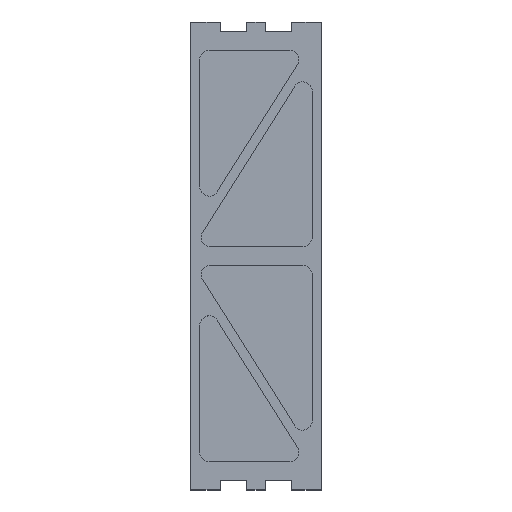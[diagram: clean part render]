
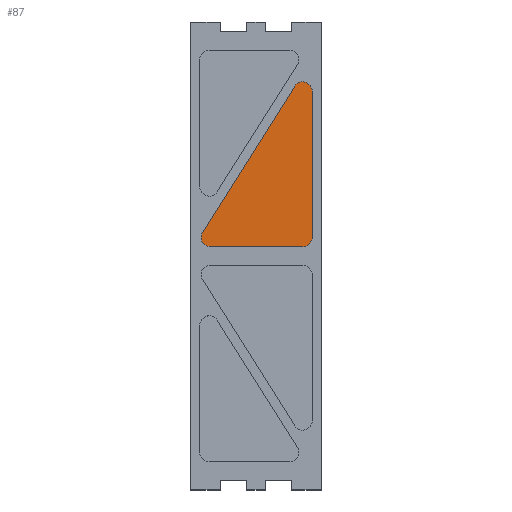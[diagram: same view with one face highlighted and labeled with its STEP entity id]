
A CAD part, top view. The second image highlights one B-rep face of the part: STEP entity #87.
In plain terms, the highlighted planar face has unit normal (0, 0, 1).
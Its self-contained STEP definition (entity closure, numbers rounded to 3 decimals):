
#87 = ADVANCED_FACE ( 'NONE', ( #666 ), #1547, .F. ) ;
#122 = CIRCLE ( 'NONE', #2105, 5. ) ;
#129 = VERTEX_POINT ( 'NONE', #1779 ) ;
#153 = DIRECTION ( 'NONE',  ( 0., 0., 1. ) ) ;
#159 = AXIS2_PLACEMENT_3D ( 'NONE', #575, #413, #922 ) ;
#222 = VERTEX_POINT ( 'NONE', #356 ) ;
#266 = DIRECTION ( 'NONE',  ( 1., 0., 0. ) ) ;
#283 = EDGE_CURVE ( 'NONE', #1451, #1733, #2031, .T. ) ;
#288 = DIRECTION ( 'NONE',  ( 0., 1., 0. ) ) ;
#319 = ORIENTED_EDGE ( 'NONE', *, *, #543, .T. ) ;
#356 = CARTESIAN_POINT ( 'NONE',  ( 55.773, 215.708, 1. ) ) ;
#392 = VECTOR ( 'NONE', #288, 1000. ) ;
#413 = DIRECTION ( 'NONE',  ( 0., 0., 1. ) ) ;
#435 = EDGE_CURVE ( 'NONE', #552, #222, #122, .T. ) ;
#538 = EDGE_CURVE ( 'NONE', #129, #1451, #953, .T. ) ;
#543 = EDGE_CURVE ( 'NONE', #1733, #552, #1132, .T. ) ;
#552 = VERTEX_POINT ( 'NONE', #1303 ) ;
#574 = AXIS2_PLACEMENT_3D ( 'NONE', #1373, #2099, #1720 ) ;
#575 = CARTESIAN_POINT ( 'NONE',  ( 60., 135., 1. ) ) ;
#652 = EDGE_CURVE ( 'NONE', #222, #1115, #1758, .T. ) ;
#661 = CARTESIAN_POINT ( 'NONE',  ( 6.485, 137.67, 1. ) ) ;
#666 = FACE_OUTER_BOUND ( 'NONE', #1334, .T. ) ;
#797 = ORIENTED_EDGE ( 'NONE', *, *, #435, .T. ) ;
#809 = CARTESIAN_POINT ( 'NONE',  ( 10.713, 130., 1. ) ) ;
#880 = ORIENTED_EDGE ( 'NONE', *, *, #538, .T. ) ;
#922 = DIRECTION ( 'NONE',  ( -1., 0., 0. ) ) ;
#953 = LINE ( 'NONE', #809, #976 ) ;
#976 = VECTOR ( 'NONE', #2203, 1000. ) ;
#1082 = ORIENTED_EDGE ( 'NONE', *, *, #283, .T. ) ;
#1115 = VERTEX_POINT ( 'NONE', #1718 ) ;
#1132 = LINE ( 'NONE', #1890, #392 ) ;
#1223 = EDGE_CURVE ( 'NONE', #1115, #129, #1984, .T. ) ;
#1274 = AXIS2_PLACEMENT_3D ( 'NONE', #2296, #153, #1940 ) ;
#1284 = ORIENTED_EDGE ( 'NONE', *, *, #1223, .T. ) ;
#1303 = CARTESIAN_POINT ( 'NONE',  ( 65., 213.038, 1. ) ) ;
#1334 = EDGE_LOOP ( 'NONE', ( #1082, #319, #797, #1844, #1284, #880 ) ) ;
#1353 = CARTESIAN_POINT ( 'NONE',  ( 65., 135., 1. ) ) ;
#1373 = CARTESIAN_POINT ( 'NONE',  ( 60., 135., 1. ) ) ;
#1451 = VERTEX_POINT ( 'NONE', #2273 ) ;
#1547 = PLANE ( 'NONE',  #574 ) ;
#1718 = CARTESIAN_POINT ( 'NONE',  ( 6.485, 137.67, 1. ) ) ;
#1720 = DIRECTION ( 'NONE',  ( -1., 0., 0. ) ) ;
#1733 = VERTEX_POINT ( 'NONE', #1353 ) ;
#1758 = LINE ( 'NONE', #661, #2187 ) ;
#1779 = CARTESIAN_POINT ( 'NONE',  ( 10.713, 130., 1. ) ) ;
#1844 = ORIENTED_EDGE ( 'NONE', *, *, #652, .T. ) ;
#1890 = CARTESIAN_POINT ( 'NONE',  ( 65., 135., 1. ) ) ;
#1940 = DIRECTION ( 'NONE',  ( 1., 0., 0. ) ) ;
#1984 = CIRCLE ( 'NONE', #1274, 5. ) ;
#2031 = CIRCLE ( 'NONE', #159, 5. ) ;
#2072 = DIRECTION ( 'NONE',  ( 0., 0., 1. ) ) ;
#2093 = DIRECTION ( 'NONE',  ( -0.534, -0.845, 0. ) ) ;
#2099 = DIRECTION ( 'NONE',  ( 0., 0., -1. ) ) ;
#2105 = AXIS2_PLACEMENT_3D ( 'NONE', #2235, #2072, #266 ) ;
#2187 = VECTOR ( 'NONE', #2093, 1000. ) ;
#2203 = DIRECTION ( 'NONE',  ( 1., 0., 0. ) ) ;
#2235 = CARTESIAN_POINT ( 'NONE',  ( 60., 213.038, 1. ) ) ;
#2273 = CARTESIAN_POINT ( 'NONE',  ( 60., 130., 1. ) ) ;
#2296 = CARTESIAN_POINT ( 'NONE',  ( 10.713, 135., 1. ) ) ;
